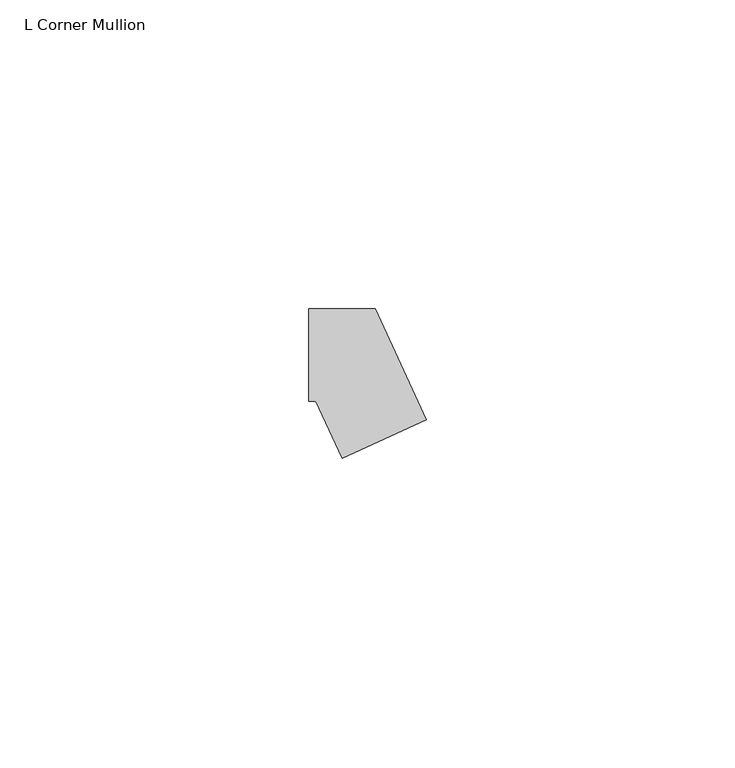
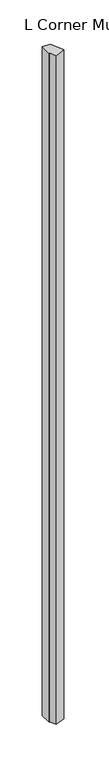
"""IFC4 building model written with IfcOpenShell, lengths in millimetres: member geometry, L Corner Mullion : ARQ_HERR_15X6mm."""

from ifc_helpers import new_model, si_unit, frame, origin, place, context, project, spatial, polyline, outline, extrude, source, transform, mapped, element, save


def l_corner_mullion_7bb9dce8(model_context):
    return source(origin(), model_context, "Body", "SweptSolid", [
        extrude(outline(polyline([(-0.5775282, -16.7605627), (-4.8156946, -7.5), (-6.0, -7.5), (-6.0, 7.5), (4.8156946, 7.5), (13.0619332, -10.5183601), (-0.5775282, -16.7605627)])), frame((0.0, 0.0, -967.5170125), z_axis=(0.0, 0.0, 1.0), x_axis=(1.0, 0.0, 0.0)), (0.0, 0.0, 1.0), 967.5170125),
    ])


if __name__ == "__main__":
    model = new_model("IFC4")
    model_context = context("Model", 3, world=origin())
    ifc_project = project(units=[si_unit("LENGTHUNIT", "METRE", prefix="MILLI")], contexts=[model_context])
    site = spatial("IfcSite", under=ifc_project)
    building = spatial("IfcBuilding", under=site)
    placement = place(None, origin())
    l_corner_mullion_shape = l_corner_mullion_7bb9dce8(model_context)
    element("IfcMember", 1, ObjectType="L Corner Mullion : ARQ_HERR_15X6mm", at=placement, inside=building, context=model_context, shape_type="MappedRepresentation", body=[
        mapped(l_corner_mullion_shape, transform((0.0, 0.0, 0.0), x_axis=(1.0, 0.0, 0.0), y_axis=(0.0, 1.0, 0.0), z_axis=(0.0, 0.0, 1.0))),
    ])
    save(model, "model.ifc")
